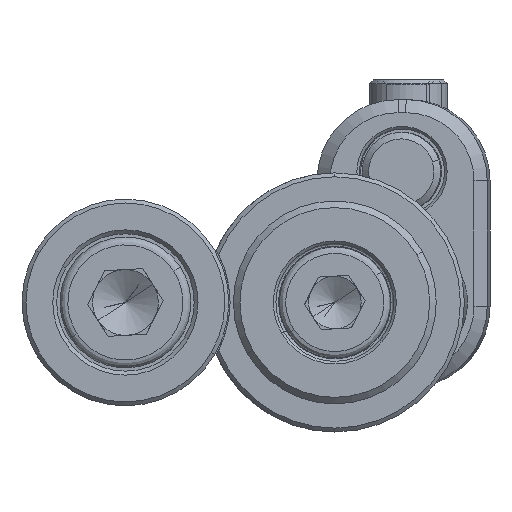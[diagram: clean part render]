
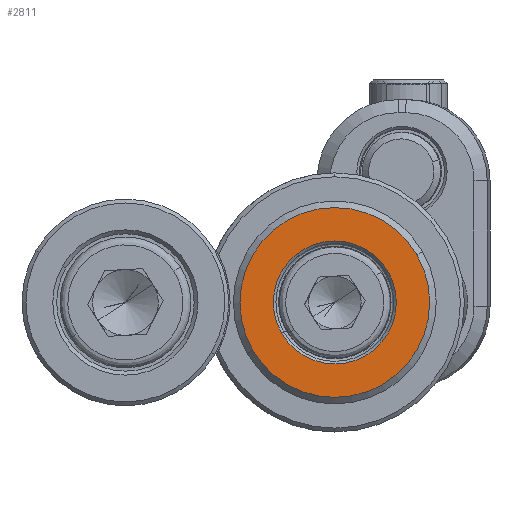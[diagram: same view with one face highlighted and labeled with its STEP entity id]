
A CAD part, front view. The second image highlights one B-rep face of the part: STEP entity #2811.
In plain terms, the highlighted planar face has unit normal (0, -1, 0).
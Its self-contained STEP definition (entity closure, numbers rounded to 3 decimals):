
#328 = CARTESIAN_POINT ( 'NONE',  ( -6.268, -4., -3.643 ) ) ;
#359 = CARTESIAN_POINT ( 'NONE',  ( 2.261, -4., -3.891 ) ) ;
#710 = ORIENTED_EDGE ( 'NONE', *, *, #712, .T. ) ;
#712 = EDGE_CURVE ( 'NONE', #10767, #3044, #3052, .T. ) ;
#1369 = DIRECTION ( 'NONE',  ( -0.865, 0., -0.503 ) ) ;
#1390 = DIRECTION ( 'NONE',  ( -0.865, 0., -0.503 ) ) ;
#1500 = EDGE_CURVE ( 'NONE', #5677, #11360, #12088, .T. ) ;
#1704 = EDGE_CURVE ( 'NONE', #11360, #5677, #8672, .T. ) ;
#2193 = CARTESIAN_POINT ( 'NONE',  ( 0., -4., 0. ) ) ;
#2427 = ORIENTED_EDGE ( 'NONE', *, *, #1500, .T. ) ;
#2463 = CARTESIAN_POINT ( 'NONE',  ( 6.268, -4., 3.643 ) ) ;
#2465 = FACE_BOUND ( 'NONE', #11658, .T. ) ;
#2483 = AXIS2_PLACEMENT_3D ( 'NONE', #5323, #12047, #7729 ) ;
#2811 = ADVANCED_FACE ( 'NONE', ( #2465, #12287 ), #3571, .F. ) ;
#3044 = VERTEX_POINT ( 'NONE', #7796 ) ;
#3052 = CIRCLE ( 'NONE', #11033, 4.7 ) ;
#3571 = PLANE ( 'NONE',  #11148 ) ;
#5323 = CARTESIAN_POINT ( 'NONE',  ( 0., -4., 0. ) ) ;
#5677 = VERTEX_POINT ( 'NONE', #2463 ) ;
#6059 = CIRCLE ( 'NONE', #14064, 4.7 ) ;
#6588 = DIRECTION ( 'NONE',  ( -0.865, 0., -0.503 ) ) ;
#7047 = ORIENTED_EDGE ( 'NONE', *, *, #1704, .T. ) ;
#7482 = DIRECTION ( 'NONE',  ( -0.865, 0., -0.503 ) ) ;
#7591 = CARTESIAN_POINT ( 'NONE',  ( 0., -4., 0. ) ) ;
#7708 = AXIS2_PLACEMENT_3D ( 'NONE', #10034, #11184, #1369 ) ;
#7729 = DIRECTION ( 'NONE',  ( -0.865, 0., -0.503 ) ) ;
#7796 = CARTESIAN_POINT ( 'NONE',  ( -4.063, -4., -2.362 ) ) ;
#8672 = CIRCLE ( 'NONE', #2483, 7.25 ) ;
#9927 = DIRECTION ( 'NONE',  ( 0., 1., 0. ) ) ;
#10034 = CARTESIAN_POINT ( 'NONE',  ( 0., -4., 0. ) ) ;
#10602 = EDGE_CURVE ( 'NONE', #3044, #10767, #6059, .T. ) ;
#10767 = VERTEX_POINT ( 'NONE', #11754 ) ;
#11033 = AXIS2_PLACEMENT_3D ( 'NONE', #2193, #9927, #7482 ) ;
#11148 = AXIS2_PLACEMENT_3D ( 'NONE', #359, #12422, #1390 ) ;
#11176 = ORIENTED_EDGE ( 'NONE', *, *, #10602, .T. ) ;
#11184 = DIRECTION ( 'NONE',  ( 0., -1., 0. ) ) ;
#11360 = VERTEX_POINT ( 'NONE', #328 ) ;
#11658 = EDGE_LOOP ( 'NONE', ( #710, #11176 ) ) ;
#11754 = CARTESIAN_POINT ( 'NONE',  ( 4.063, -4., 2.362 ) ) ;
#11990 = DIRECTION ( 'NONE',  ( 0., 1., 0. ) ) ;
#12047 = DIRECTION ( 'NONE',  ( 0., -1., 0. ) ) ;
#12088 = CIRCLE ( 'NONE', #7708, 7.25 ) ;
#12287 = FACE_OUTER_BOUND ( 'NONE', #13518, .T. ) ;
#12422 = DIRECTION ( 'NONE',  ( 0., 1., 0. ) ) ;
#13518 = EDGE_LOOP ( 'NONE', ( #7047, #2427 ) ) ;
#14064 = AXIS2_PLACEMENT_3D ( 'NONE', #7591, #11990, #6588 ) ;
